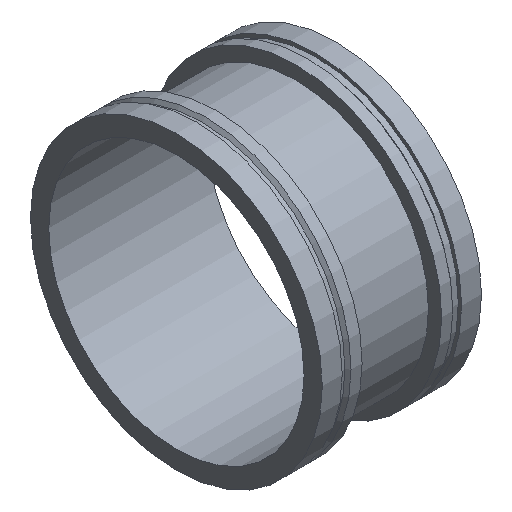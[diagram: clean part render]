
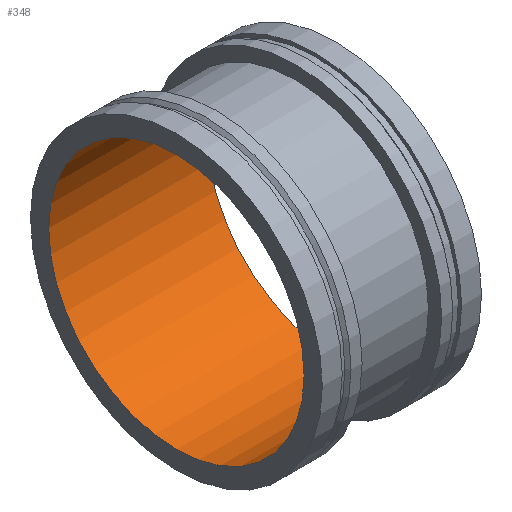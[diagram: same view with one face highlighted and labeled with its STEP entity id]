
A CAD part, isometric view. The second image highlights one B-rep face of the part: STEP entity #348.
In plain terms, the highlighted cylindrical face has radius 244.475 mm (diameter 488.95 mm), a full revolution.
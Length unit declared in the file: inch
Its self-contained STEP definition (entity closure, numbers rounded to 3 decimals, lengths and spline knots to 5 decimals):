
#56=LINE('',#654,#66);
#66=VECTOR('',#537,9.625);
#74=CYLINDRICAL_SURFACE('',#416,9.625);
#96=FACE_OUTER_BOUND('',#118,.T.);
#118=EDGE_LOOP('',(#303,#304,#305,#306,#307,#308));
#121=CIRCLE('',#372,9.625);
#122=CIRCLE('',#373,9.625);
#149=CIRCLE('',#414,9.625);
#150=CIRCLE('',#415,9.625);
#153=VERTEX_POINT('',#570);
#154=VERTEX_POINT('',#571);
#181=VERTEX_POINT('',#649);
#182=VERTEX_POINT('',#650);
#185=EDGE_CURVE('',#153,#154,#121,.T.);
#186=EDGE_CURVE('',#154,#153,#122,.T.);
#222=EDGE_CURVE('',#181,#182,#149,.T.);
#223=EDGE_CURVE('',#182,#181,#150,.T.);
#224=EDGE_CURVE('',#182,#154,#56,.T.);
#303=ORIENTED_EDGE('',*,*,#222,.T.);
#304=ORIENTED_EDGE('',*,*,#224,.T.);
#305=ORIENTED_EDGE('',*,*,#185,.F.);
#306=ORIENTED_EDGE('',*,*,#186,.F.);
#307=ORIENTED_EDGE('',*,*,#224,.F.);
#308=ORIENTED_EDGE('',*,*,#223,.T.);
#348=ADVANCED_FACE('',(#96),#74,.F.);
#372=AXIS2_PLACEMENT_3D('',#572,#438,#439);
#373=AXIS2_PLACEMENT_3D('',#573,#440,#441);
#414=AXIS2_PLACEMENT_3D('',#651,#531,#532);
#415=AXIS2_PLACEMENT_3D('',#652,#533,#534);
#416=AXIS2_PLACEMENT_3D('',#653,#535,#536);
#438=DIRECTION('center_axis',(1.,0.,0.));
#439=DIRECTION('ref_axis',(0.,0.,-1.));
#440=DIRECTION('center_axis',(1.,0.,0.));
#441=DIRECTION('ref_axis',(0.,0.,-1.));
#531=DIRECTION('center_axis',(1.,0.,0.));
#532=DIRECTION('ref_axis',(0.,0.,-1.));
#533=DIRECTION('center_axis',(1.,0.,0.));
#534=DIRECTION('ref_axis',(0.,0.,-1.));
#535=DIRECTION('center_axis',(1.,0.,0.));
#536=DIRECTION('ref_axis',(0.,1.,0.));
#537=DIRECTION('',(-1.,0.,0.));
#570=CARTESIAN_POINT('',(0.,9.625,0.));
#571=CARTESIAN_POINT('',(0.,-9.625,0.));
#572=CARTESIAN_POINT('Origin',(0.,0.,
0.));
#573=CARTESIAN_POINT('Origin',(0.,0.,
0.));
#649=CARTESIAN_POINT('',(12.,9.625,0.));
#650=CARTESIAN_POINT('',(12.,-9.625,0.));
#651=CARTESIAN_POINT('Origin',(12.,0.,0.));
#652=CARTESIAN_POINT('Origin',(12.,0.,0.));
#653=CARTESIAN_POINT('Origin',(6.,0.,0.));
#654=CARTESIAN_POINT('',(6.,-9.625,0.));
